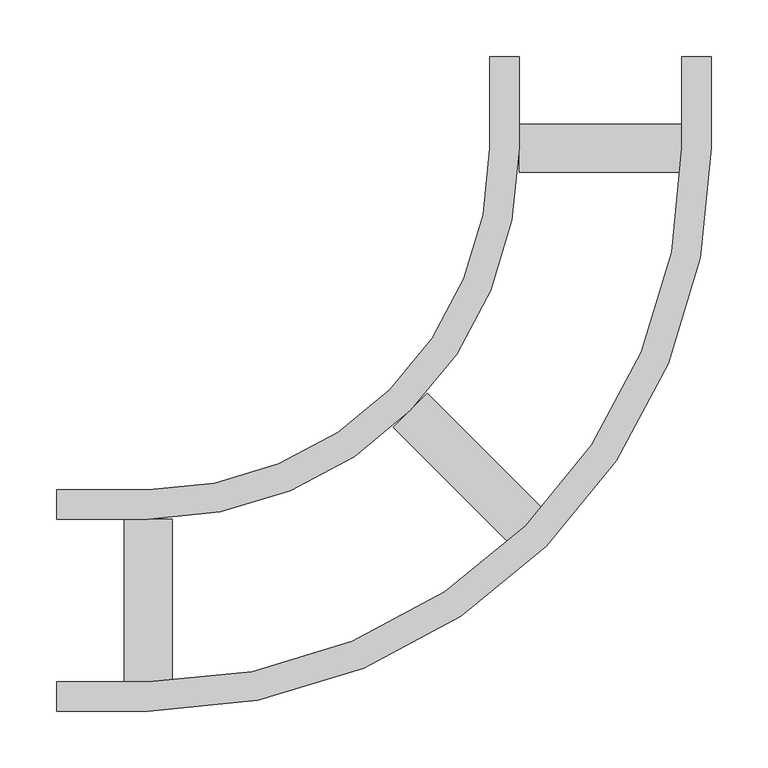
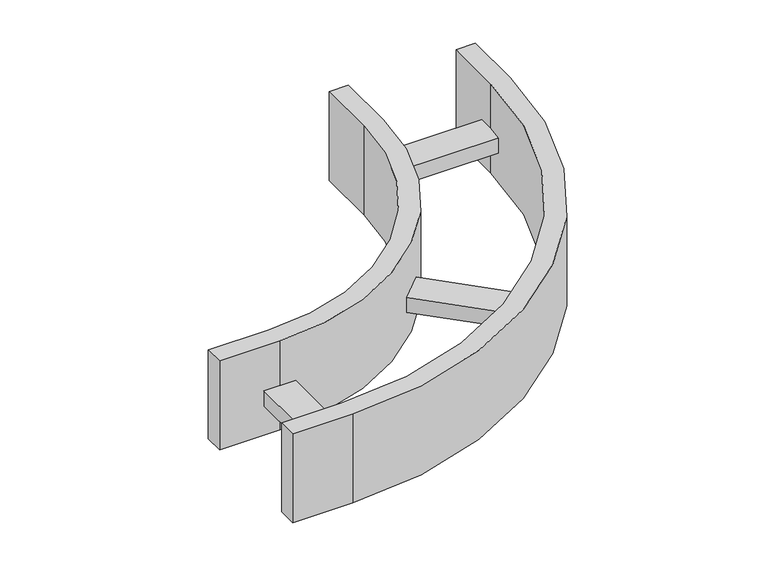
"""IFC4 building model written with IfcOpenShell, lengths in millimetres: cable carrier fitting geometry, Legrand_CableLadder_Swifts_Sapphire_FlatBend-13 : Hot Dip Galvanised (after manufacture)."""

from ifc_helpers import new_model, si_unit, point, frame, frame_2d, origin, place, context, project, spatial, polyline, circle_curve, trimmed, segment, composite_curve, outline, extrude, source, transform, mapped, element, save


def cable_carrier_fitting_98b40e06(model_context):
    return source(origin(), model_context, "Body", "SweptSolid", [
        extrude(outline(polyline([(-80.5697154, 50.8712306), (-181.6859851, 151.9875003), (-151.9875003, 181.6859851), (-50.8712306, 80.5697154), (-80.5697154, 50.8712306)])), frame((0.0, 0.0, -21.0), z_axis=(0.0, 0.0, 1.0), x_axis=(1.0, 0.0, 0.0)), (0.0, 0.0, 1.0), 21.0),
        extrude(outline(polyline([(-418.0, -71.5), (-418.0, 71.5), (-376.0, 71.5), (-376.0, -71.5), (-418.0, -71.5)])), frame((0.0, 0.0, -21.0), z_axis=(0.0, 0.0, 1.0), x_axis=(1.0, 0.0, 0.0)), (0.0, 0.0, 1.0), 21.0),
        extrude(outline(polyline([(71.5, 376.0), (-71.5, 376.0), (-71.5, 418.0), (71.5, 418.0), (71.5, 376.0)])), frame((0.0, 0.0, -21.0), z_axis=(0.0, 0.0, 1.0), x_axis=(1.0, 0.0, 0.0)), (0.0, 0.0, 1.0), 21.0),
        extrude(outline(composite_curve([segment(polyline([(-477.0, -97.0), (-477.0, -71.5), (-397.0, -71.5)]), True, "CONTINUOUS"), segment(trimmed(circle_curve(frame_2d((-397.0, 397.0)), 468.5), [point((-397.0, -71.5))], [point((71.5, 397.0))], True, "CARTESIAN"), True, "CONTINUOUS"), segment(polyline([(71.5, 397.0), (71.5, 477.0), (97.0, 477.0), (97.0, 397.0)]), True, "CONTINUOUS"), segment(trimmed(circle_curve(frame_2d((-397.0, 397.0)), 494.0), [point((97.0, 397.0))], [point((-397.0, -97.0))], False, "CARTESIAN"), True, "CONTINUOUS"), segment(polyline([(-397.0, -97.0), (-477.0, -97.0)]), True, "CONTINUOUS")], self_intersect=False)), frame((0.0, 0.0, -62.5), z_axis=(0.0, 0.0, 1.0), x_axis=(1.0, 0.0, 0.0)), (0.0, 0.0, 1.0), 125.0),
        extrude(outline(composite_curve([segment(polyline([(-477.0, 71.5), (-477.0, 97.0), (-397.0, 97.0)]), True, "CONTINUOUS"), segment(trimmed(circle_curve(frame_2d((-397.0, 397.0)), 300.0), [point((-397.0, 97.0))], [point((-97.0, 397.0))], True, "CARTESIAN"), True, "CONTINUOUS"), segment(polyline([(-97.0, 397.0), (-97.0, 477.0), (-71.5, 477.0), (-71.5, 397.0)]), True, "CONTINUOUS"), segment(trimmed(circle_curve(frame_2d((-397.0, 397.0)), 325.5), [point((-71.5, 397.0))], [point((-397.0, 71.5))], False, "CARTESIAN"), True, "CONTINUOUS"), segment(polyline([(-397.0, 71.5), (-477.0, 71.5)]), True, "CONTINUOUS")], self_intersect=False)), frame((0.0, 0.0, -62.5), z_axis=(0.0, 0.0, 1.0), x_axis=(1.0, 0.0, 0.0)), (0.0, 0.0, 1.0), 125.0),
    ])


if __name__ == "__main__":
    model = new_model("IFC4")
    model_context = context("Model", 3, world=origin())
    ifc_project = project(units=[si_unit("LENGTHUNIT", "METRE", prefix="MILLI")], contexts=[model_context])
    site = spatial("IfcSite", under=ifc_project)
    building = spatial("IfcBuilding", under=site)
    placement = place(None, origin())
    cable_carrier_fitting_shape = cable_carrier_fitting_98b40e06(model_context)
    element("IfcCableCarrierFitting", 1, ObjectType="Legrand_CableLadder_Swifts_Sapphire_FlatBend-13 : Hot Dip Galvanised (after manufacture)", at=placement, inside=building, context=model_context, shape_type="MappedRepresentation", body=[
        mapped(cable_carrier_fitting_shape, transform((0.0, 0.0, 0.0), x_axis=(1.0, 0.0, 0.0), y_axis=(0.0, 1.0, 0.0), z_axis=(0.0, 0.0, 1.0))),
    ])
    save(model, "model.ifc")
